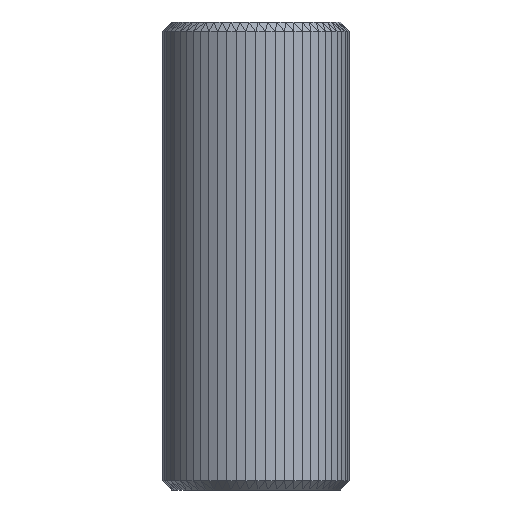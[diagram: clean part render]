
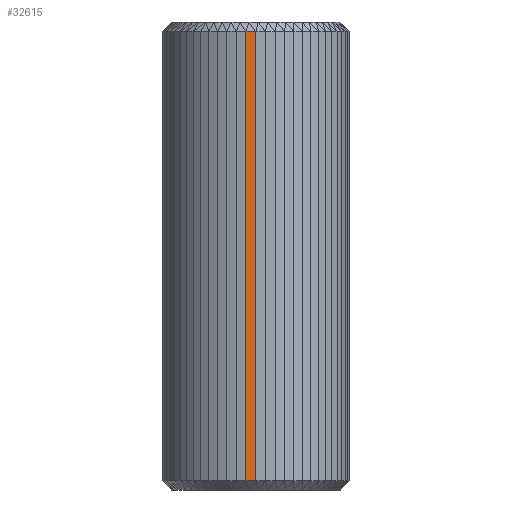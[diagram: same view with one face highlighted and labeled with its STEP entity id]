
A CAD part, left-side view. The second image highlights one B-rep face of the part: STEP entity #32615.
In plain terms, the highlighted planar face has unit normal (-0.999, 0.055, 0).
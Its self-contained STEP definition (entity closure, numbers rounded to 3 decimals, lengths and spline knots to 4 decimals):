
#26707 = VERTEX_POINT('',#26708);
#26708 = CARTESIAN_POINT('',(-2.,0.0054,
    0.2));
#26722 = PLANE('',#26723);
#26723 = AXIS2_PLACEMENT_3D('',#26724,#26725,#26726);
#26724 = CARTESIAN_POINT('',(-1.9896,-0.2041,
    0.2));
#26725 = DIRECTION('',(-0.999,-0.05,0.));
#26726 = DIRECTION('',(0.05,-0.999,0.));
#26780 = PLANE('',#26781);
#26781 = AXIS2_PLACEMENT_3D('',#26782,#26783,#26784);
#26782 = CARTESIAN_POINT('',(-1.7937,0.1499,0.));
#26783 = DIRECTION('',(-0.71,0.039,
    -0.703));
#26784 = DIRECTION('',(0.704,0.,-0.71));
#26817 = EDGE_CURVE('',#26707,#26818,#26820,.T.);
#26818 = VERTEX_POINT('',#26819);
#26819 = CARTESIAN_POINT('',(-1.9884,0.2148,
    0.2));
#26820 = SURFACE_CURVE('',#26821,(#26825,#26832),.PCURVE_S1.);
#26821 = LINE('',#26822,#26823);
#26822 = CARTESIAN_POINT('',(-2.,0.0054,
    0.2));
#26823 = VECTOR('',#26824,1.);
#26824 = DIRECTION('',(0.055,0.998,0.));
#26825 = PCURVE('',#26780,#26826);
#26826 = DEFINITIONAL_REPRESENTATION('',(#26827),#26831);
#26827 = LINE('',#26828,#26829);
#26828 = CARTESIAN_POINT('',(-0.287,0.145));
#26829 = VECTOR('',#26830,1.);
#26830 = DIRECTION('',(0.039,-0.999));
#26831 = ( GEOMETRIC_REPRESENTATION_CONTEXT(2) 
PARAMETRIC_REPRESENTATION_CONTEXT() REPRESENTATION_CONTEXT('2D SPACE',''
  ) );
#26832 = PCURVE('',#26833,#26838);
#26833 = PLANE('',#26834);
#26834 = AXIS2_PLACEMENT_3D('',#26835,#26836,#26837);
#26835 = CARTESIAN_POINT('',(-2.,0.0054,
    0.2));
#26836 = DIRECTION('',(-0.998,0.055,0.));
#26837 = DIRECTION('',(-0.055,-0.998,0.));
#26838 = DEFINITIONAL_REPRESENTATION('',(#26839),#26843);
#26839 = LINE('',#26840,#26841);
#26840 = CARTESIAN_POINT('',(0.,0.));
#26841 = VECTOR('',#26842,1.);
#26842 = DIRECTION('',(-1.,0.));
#26843 = ( GEOMETRIC_REPRESENTATION_CONTEXT(2) 
PARAMETRIC_REPRESENTATION_CONTEXT() REPRESENTATION_CONTEXT('2D SPACE',''
  ) );
#26944 = PLANE('',#26945);
#26945 = AXIS2_PLACEMENT_3D('',#26946,#26947,#26948);
#26946 = CARTESIAN_POINT('',(-1.9884,0.2148,
    0.2));
#26947 = DIRECTION('',(-0.987,0.159,0.));
#26948 = DIRECTION('',(-0.159,-0.987,0.));
#32519 = EDGE_CURVE('',#32520,#26818,#32522,.T.);
#32520 = VERTEX_POINT('',#32521);
#32521 = CARTESIAN_POINT('',(-1.9884,0.2148,
    9.8));
#32522 = SURFACE_CURVE('',#32523,(#32527,#32534),.PCURVE_S1.);
#32523 = LINE('',#32524,#32525);
#32524 = CARTESIAN_POINT('',(-1.9884,0.2148,
    9.8));
#32525 = VECTOR('',#32526,1.);
#32526 = DIRECTION('',(0.,0.,-1.));
#32527 = PCURVE('',#26944,#32528);
#32528 = DEFINITIONAL_REPRESENTATION('',(#32529),#32533);
#32529 = LINE('',#32530,#32531);
#32530 = CARTESIAN_POINT('',(0.,9.6));
#32531 = VECTOR('',#32532,1.);
#32532 = DIRECTION('',(-0.,-1.));
#32533 = ( GEOMETRIC_REPRESENTATION_CONTEXT(2) 
PARAMETRIC_REPRESENTATION_CONTEXT() REPRESENTATION_CONTEXT('2D SPACE',''
  ) );
#32534 = PCURVE('',#26833,#32535);
#32535 = DEFINITIONAL_REPRESENTATION('',(#32536),#32540);
#32536 = LINE('',#32537,#32538);
#32537 = CARTESIAN_POINT('',(-0.21,9.6));
#32538 = VECTOR('',#32539,1.);
#32539 = DIRECTION('',(-0.,-1.));
#32540 = ( GEOMETRIC_REPRESENTATION_CONTEXT(2) 
PARAMETRIC_REPRESENTATION_CONTEXT() REPRESENTATION_CONTEXT('2D SPACE',''
  ) );
#32615 = ADVANCED_FACE('',(#32616),#26833,.T.);
#32616 = FACE_BOUND('',#32617,.T.);
#32617 = EDGE_LOOP('',(#32618,#32641,#32667,#32668));
#32618 = ORIENTED_EDGE('',*,*,#32619,.F.);
#32619 = EDGE_CURVE('',#32620,#26707,#32622,.T.);
#32620 = VERTEX_POINT('',#32621);
#32621 = CARTESIAN_POINT('',(-2.,0.0054,
    9.8));
#32622 = SURFACE_CURVE('',#32623,(#32627,#32634),.PCURVE_S1.);
#32623 = LINE('',#32624,#32625);
#32624 = CARTESIAN_POINT('',(-2.,0.0054,
    9.8));
#32625 = VECTOR('',#32626,1.);
#32626 = DIRECTION('',(0.,0.,-1.));
#32627 = PCURVE('',#26833,#32628);
#32628 = DEFINITIONAL_REPRESENTATION('',(#32629),#32633);
#32629 = LINE('',#32630,#32631);
#32630 = CARTESIAN_POINT('',(0.,9.6));
#32631 = VECTOR('',#32632,1.);
#32632 = DIRECTION('',(-0.,-1.));
#32633 = ( GEOMETRIC_REPRESENTATION_CONTEXT(2) 
PARAMETRIC_REPRESENTATION_CONTEXT() REPRESENTATION_CONTEXT('2D SPACE',''
  ) );
#32634 = PCURVE('',#26722,#32635);
#32635 = DEFINITIONAL_REPRESENTATION('',(#32636),#32640);
#32636 = LINE('',#32637,#32638);
#32637 = CARTESIAN_POINT('',(-0.21,9.6));
#32638 = VECTOR('',#32639,1.);
#32639 = DIRECTION('',(0.,-1.));
#32640 = ( GEOMETRIC_REPRESENTATION_CONTEXT(2) 
PARAMETRIC_REPRESENTATION_CONTEXT() REPRESENTATION_CONTEXT('2D SPACE',''
  ) );
#32641 = ORIENTED_EDGE('',*,*,#32642,.T.);
#32642 = EDGE_CURVE('',#32620,#32520,#32643,.T.);
#32643 = SURFACE_CURVE('',#32644,(#32648,#32655),.PCURVE_S1.);
#32644 = LINE('',#32645,#32646);
#32645 = CARTESIAN_POINT('',(-2.,0.0054,
    9.8));
#32646 = VECTOR('',#32647,1.);
#32647 = DIRECTION('',(0.055,0.998,0.));
#32648 = PCURVE('',#26833,#32649);
#32649 = DEFINITIONAL_REPRESENTATION('',(#32650),#32654);
#32650 = LINE('',#32651,#32652);
#32651 = CARTESIAN_POINT('',(0.,9.6));
#32652 = VECTOR('',#32653,1.);
#32653 = DIRECTION('',(-1.,0.));
#32654 = ( GEOMETRIC_REPRESENTATION_CONTEXT(2) 
PARAMETRIC_REPRESENTATION_CONTEXT() REPRESENTATION_CONTEXT('2D SPACE',''
  ) );
#32655 = PCURVE('',#32656,#32661);
#32656 = PLANE('',#32657);
#32657 = AXIS2_PLACEMENT_3D('',#32658,#32659,#32660);
#32658 = CARTESIAN_POINT('',(-2.,0.0054,
    9.8));
#32659 = DIRECTION('',(-0.71,0.039,0.703)
  );
#32660 = DIRECTION('',(-0.704,0.,-0.71));
#32661 = DEFINITIONAL_REPRESENTATION('',(#32662),#32666);
#32662 = LINE('',#32663,#32664);
#32663 = CARTESIAN_POINT('',(0.,0.));
#32664 = VECTOR('',#32665,1.);
#32665 = DIRECTION('',(-0.039,-0.999));
#32666 = ( GEOMETRIC_REPRESENTATION_CONTEXT(2) 
PARAMETRIC_REPRESENTATION_CONTEXT() REPRESENTATION_CONTEXT('2D SPACE',''
  ) );
#32667 = ORIENTED_EDGE('',*,*,#32519,.T.);
#32668 = ORIENTED_EDGE('',*,*,#26817,.F.);
